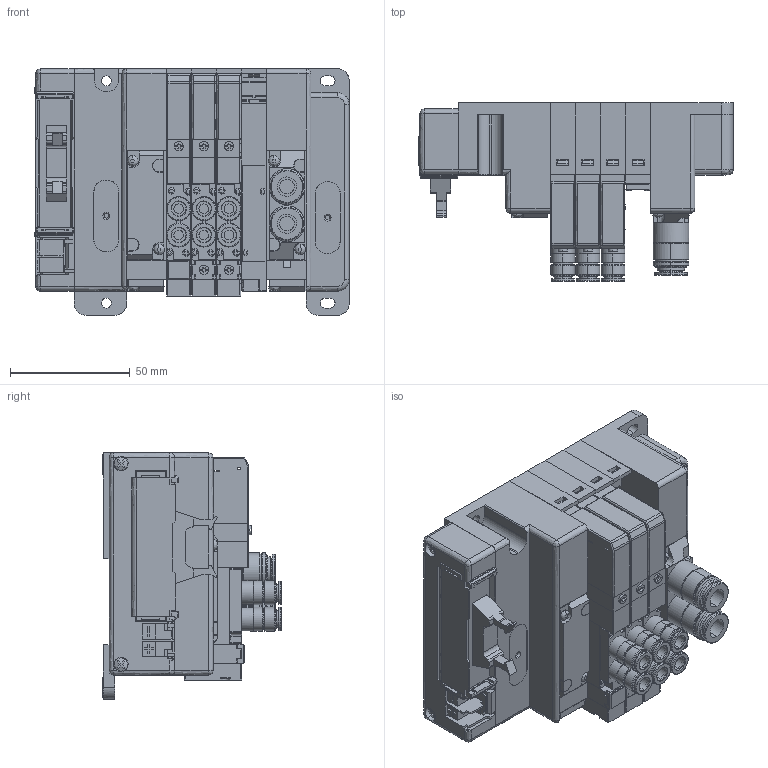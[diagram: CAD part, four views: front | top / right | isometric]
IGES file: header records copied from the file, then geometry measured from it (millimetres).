
Start section: ------------------------------------------------------------------------
Global section: file name: D:\ICADMX\tmp\trans3d_spg\CVICAD02.2536.F10M4XP-JR-F10x_14760.igs; native system: spGate; preprocessor: ver12.6.6; author: Unknown; organization: Unknown; date: 200901.145622; units: millimetre
Bounding box: 131.4 x 74.6 x 103 mm (x, y, z)
Volume: 485334.4 mm3; surface area: 148871.2 mm2
Topology: 40 solids, 40 shells, 3592 faces, 9735 edges, 6756 vertices
Faces by surface type: bspline 3592
